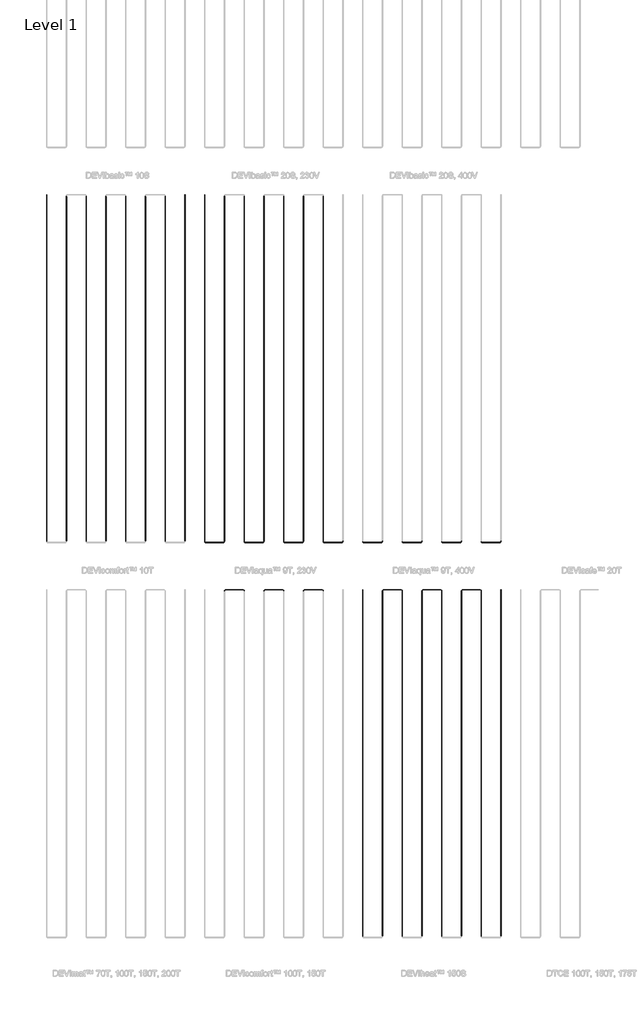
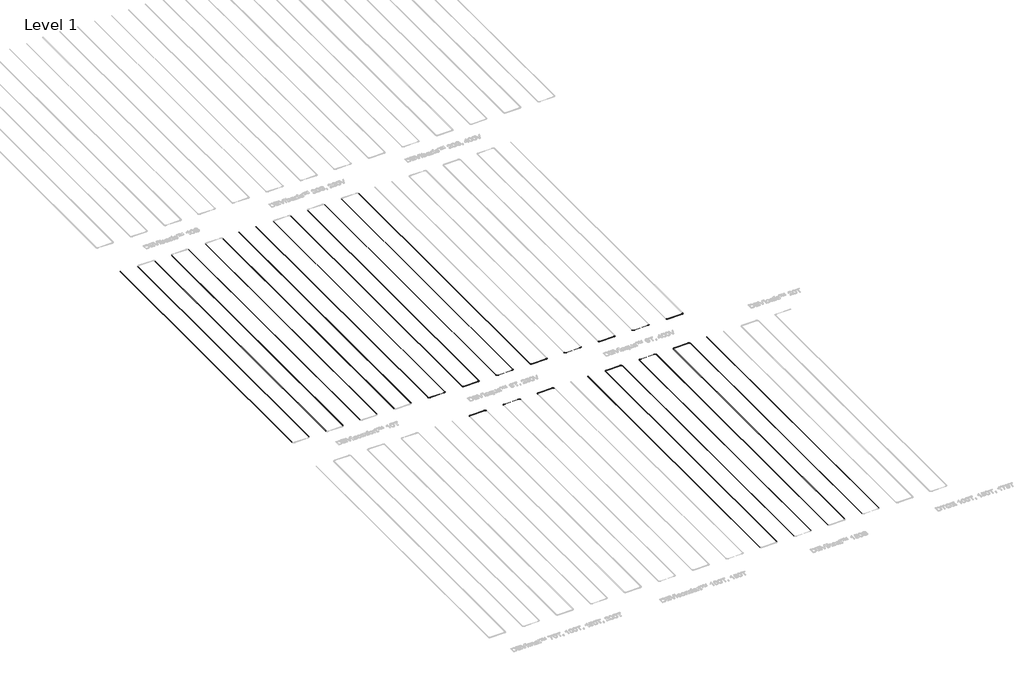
# One storey, part 2 of 26: 37 cable carrier segments, 28 cable carrier fittings.
"""IFC4 building model written with IfcOpenShell, lengths in millimetres."""

from ifc_helpers import new_model, si_unit, point, frame, frame_2d, origin, place, context, project, spatial, circle_curve, trimmed, segment, composite_curve, outline, extrude, transform, mapped, element, save
from components import cable_carrier_fitting_e4b1aeb6

model = new_model("IFC4")

# Units and contexts
model_context = context("Model", 3, world=origin())
ifc_project = project(units=[si_unit("LENGTHUNIT", "METRE", prefix="MILLI")], contexts=[model_context])

# Site, building, storey
site = spatial("IfcSite", under=ifc_project)
building = spatial("IfcBuilding", under=site)
storey = spatial("IfcBuildingStorey", under=building, Name="Level 1", Elevation=0.0)

# Cable carrier fittings
placement = place(None, origin())
cable_carrier_fitting_shape = cable_carrier_fitting_e4b1aeb6(model_context)
element("IfcCableCarrierFitting", 1, ObjectType="Danfoss Elbow : DEVIbasic™ 20S, 230V", at=placement, inside=storey, context=model_context, shape_type="MappedRepresentation", body=[
    mapped(cable_carrier_fitting_shape, transform((-7587.3402445, -16738.7894079, -100.0), x_axis=(0.0, -1.0, 0.0), y_axis=(1.0, 0.0, 0.0), z_axis=(0.0, 0.0, 1.0))),
])
element("IfcCableCarrierFitting", 2, ObjectType="Danfoss Elbow : DEVIbasic™ 20S, 230V", at=placement, inside=storey, context=model_context, shape_type="MappedRepresentation", body=[
    mapped(cable_carrier_fitting_shape, transform((-7087.3402445, -16738.7894079, -100.0), x_axis=(1.0, 0.0, 0.0), y_axis=(0.0, 1.0, 0.0), z_axis=(0.0, 0.0, 1.0))),
])
element("IfcCableCarrierFitting", 3, ObjectType="Danfoss Elbow : DEVIbasic™ 20S, 230V", at=placement, inside=storey, context=model_context, shape_type="MappedRepresentation", body=[
    mapped(cable_carrier_fitting_shape, transform((-6587.3402445, -16738.7894079, -100.0), x_axis=(0.0, -1.0, 0.0), y_axis=(1.0, 0.0, 0.0), z_axis=(0.0, 0.0, 1.0))),
])
element("IfcCableCarrierFitting", 4, ObjectType="Danfoss Elbow : DEVIbasic™ 20S, 230V", at=placement, inside=storey, context=model_context, shape_type="MappedRepresentation", body=[
    mapped(cable_carrier_fitting_shape, transform((-6087.3402445, -16738.7894079, -100.0), x_axis=(1.0, 0.0, 0.0), y_axis=(0.0, 1.0, 0.0), z_axis=(0.0, 0.0, 1.0))),
])
element("IfcCableCarrierFitting", 5, ObjectType="Danfoss Elbow : DEVIbasic™ 20S, 230V", at=placement, inside=storey, context=model_context, shape_type="MappedRepresentation", body=[
    mapped(cable_carrier_fitting_shape, transform((-5587.3402445, -16738.7894079, -100.0), x_axis=(0.0, -1.0, 0.0), y_axis=(1.0, 0.0, 0.0), z_axis=(0.0, 0.0, 1.0))),
])
element("IfcCableCarrierFitting", 6, ObjectType="Danfoss Elbow : DEVIbasic™ 20S, 230V", at=placement, inside=storey, context=model_context, shape_type="MappedRepresentation", body=[
    mapped(cable_carrier_fitting_shape, transform((-5087.3402445, -16738.7894079, -100.0), x_axis=(1.0, 0.0, 0.0), y_axis=(0.0, 1.0, 0.0), z_axis=(0.0, 0.0, 1.0))),
])
element("IfcCableCarrierFitting", 7, ObjectType="Danfoss Elbow : DEVIbasic™ 20S, 230V", at=placement, inside=storey, context=model_context, shape_type="MappedRepresentation", body=[
    mapped(cable_carrier_fitting_shape, transform((-4587.3402445, -16738.7894079, -100.0), x_axis=(0.0, -1.0, 0.0), y_axis=(1.0, 0.0, 0.0), z_axis=(0.0, 0.0, 1.0))),
])
element("IfcCableCarrierFitting", 8, ObjectType="Danfoss Elbow : DEVIbasic™ 20S, 230V", at=placement, inside=storey, context=model_context, shape_type="MappedRepresentation", body=[
    mapped(cable_carrier_fitting_shape, transform((-4087.3402445, -16738.7894079, -100.0), x_axis=(1.0, 0.0, 0.0), y_axis=(0.0, 1.0, 0.0), z_axis=(0.0, 0.0, 1.0))),
])
element("IfcCableCarrierFitting", 9, ObjectType="Danfoss Elbow : DEVIbasic™ 20S, 400V", at=placement, inside=storey, context=model_context, shape_type="MappedRepresentation", body=[
    mapped(cable_carrier_fitting_shape, transform((-3587.3402445, -16738.7894079, -100.0), x_axis=(0.0, -1.0, 0.0), y_axis=(1.0, 0.0, 0.0), z_axis=(0.0, 0.0, 1.0))),
])
element("IfcCableCarrierFitting", 10, ObjectType="Danfoss Elbow : DEVIbasic™ 20S, 400V", at=placement, inside=storey, context=model_context, shape_type="MappedRepresentation", body=[
    mapped(cable_carrier_fitting_shape, transform((-3087.3402445, -16738.7894079, -100.0), x_axis=(1.0, 0.0, 0.0), y_axis=(0.0, 1.0, 0.0), z_axis=(0.0, 0.0, 1.0))),
])
element("IfcCableCarrierFitting", 11, ObjectType="Danfoss Elbow : DEVIbasic™ 20S, 400V", at=placement, inside=storey, context=model_context, shape_type="MappedRepresentation", body=[
    mapped(cable_carrier_fitting_shape, transform((-2587.3402445, -16738.7894079, -100.0), x_axis=(0.0, -1.0, 0.0), y_axis=(1.0, 0.0, 0.0), z_axis=(0.0, 0.0, 1.0))),
])
element("IfcCableCarrierFitting", 12, ObjectType="Danfoss Elbow : DEVIbasic™ 20S, 400V", at=placement, inside=storey, context=model_context, shape_type="MappedRepresentation", body=[
    mapped(cable_carrier_fitting_shape, transform((-2087.3402445, -16738.7894079, -100.0), x_axis=(1.0, 0.0, 0.0), y_axis=(0.0, 1.0, 0.0), z_axis=(0.0, 0.0, 1.0))),
])
element("IfcCableCarrierFitting", 13, ObjectType="Danfoss Elbow : DEVIbasic™ 20S, 400V", at=placement, inside=storey, context=model_context, shape_type="MappedRepresentation", body=[
    mapped(cable_carrier_fitting_shape, transform((-1587.3402445, -16738.7894079, -100.0), x_axis=(0.0, -1.0, 0.0), y_axis=(1.0, 0.0, 0.0), z_axis=(0.0, 0.0, 1.0))),
])
element("IfcCableCarrierFitting", 14, ObjectType="Danfoss Elbow : DEVIbasic™ 20S, 400V", at=placement, inside=storey, context=model_context, shape_type="MappedRepresentation", body=[
    mapped(cable_carrier_fitting_shape, transform((-1087.3402445, -16738.7894079, -100.0), x_axis=(1.0, 0.0, 0.0), y_axis=(0.0, 1.0, 0.0), z_axis=(0.0, 0.0, 1.0))),
])
element("IfcCableCarrierFitting", 15, ObjectType="Danfoss Elbow : DEVIbasic™ 20S, 400V", at=placement, inside=storey, context=model_context, shape_type="MappedRepresentation", body=[
    mapped(cable_carrier_fitting_shape, transform((-587.3402445, -16738.7894079, -100.0), x_axis=(0.0, -1.0, 0.0), y_axis=(1.0, 0.0, 0.0), z_axis=(0.0, 0.0, 1.0))),
])
element("IfcCableCarrierFitting", 16, ObjectType="Danfoss Elbow : DEVIbasic™ 20S, 400V", at=placement, inside=storey, context=model_context, shape_type="MappedRepresentation", body=[
    mapped(cable_carrier_fitting_shape, transform((-87.3402445, -16738.7894079, -100.0), x_axis=(1.0, 0.0, 0.0), y_axis=(0.0, 1.0, 0.0), z_axis=(0.0, 0.0, 1.0))),
])
element("IfcCableCarrierFitting", 17, ObjectType="Danfoss Elbow : DEVIaqua™ 9T, 230V", at=placement, inside=storey, context=model_context, shape_type="MappedRepresentation", body=[
    mapped(cable_carrier_fitting_shape, transform((-7087.3402445, -17938.7894079, -100.0), x_axis=(-1.0, 0.0, 0.0), y_axis=(0.0, -1.0, 0.0), z_axis=(0.0, 0.0, 1.0))),
])
element("IfcCableCarrierFitting", 18, ObjectType="Danfoss Elbow : DEVIaqua™ 9T, 230V", at=placement, inside=storey, context=model_context, shape_type="MappedRepresentation", body=[
    mapped(cable_carrier_fitting_shape, transform((-6587.3402445, -17938.7894079, -100.0), x_axis=(0.0, 1.0, 0.0), y_axis=(-1.0, 0.0, 0.0), z_axis=(0.0, 0.0, 1.0))),
])
element("IfcCableCarrierFitting", 19, ObjectType="Danfoss Elbow : DEVIaqua™ 9T, 230V", at=placement, inside=storey, context=model_context, shape_type="MappedRepresentation", body=[
    mapped(cable_carrier_fitting_shape, transform((-6087.3402445, -17938.7894079, -100.0), x_axis=(-1.0, 0.0, 0.0), y_axis=(0.0, -1.0, 0.0), z_axis=(0.0, 0.0, 1.0))),
])
element("IfcCableCarrierFitting", 20, ObjectType="Danfoss Elbow : DEVIaqua™ 9T, 230V", at=placement, inside=storey, context=model_context, shape_type="MappedRepresentation", body=[
    mapped(cable_carrier_fitting_shape, transform((-5587.3402445, -17938.7894079, -100.0), x_axis=(0.0, 1.0, 0.0), y_axis=(-1.0, 0.0, 0.0), z_axis=(0.0, 0.0, 1.0))),
])
element("IfcCableCarrierFitting", 21, ObjectType="Danfoss Elbow : DEVIaqua™ 9T, 230V", at=placement, inside=storey, context=model_context, shape_type="MappedRepresentation", body=[
    mapped(cable_carrier_fitting_shape, transform((-5087.3402445, -17938.7894079, -100.0), x_axis=(-1.0, 0.0, 0.0), y_axis=(0.0, -1.0, 0.0), z_axis=(0.0, 0.0, 1.0))),
])
element("IfcCableCarrierFitting", 22, ObjectType="Danfoss Elbow : DEVIaqua™ 9T, 230V", at=placement, inside=storey, context=model_context, shape_type="MappedRepresentation", body=[
    mapped(cable_carrier_fitting_shape, transform((-4587.3402445, -17938.7894079, -100.0), x_axis=(0.0, 1.0, 0.0), y_axis=(-1.0, 0.0, 0.0), z_axis=(0.0, 0.0, 1.0))),
])
element("IfcCableCarrierFitting", 23, ObjectType="Danfoss Elbow : DEVIaqua™ 9T, 400V", at=placement, inside=storey, context=model_context, shape_type="MappedRepresentation", body=[
    mapped(cable_carrier_fitting_shape, transform((-3087.3402445, -17938.7894079, -100.0), x_axis=(-1.0, 0.0, 0.0), y_axis=(0.0, -1.0, 0.0), z_axis=(0.0, 0.0, 1.0))),
])
element("IfcCableCarrierFitting", 24, ObjectType="Danfoss Elbow : DEVIaqua™ 9T, 400V", at=placement, inside=storey, context=model_context, shape_type="MappedRepresentation", body=[
    mapped(cable_carrier_fitting_shape, transform((-2587.3402445, -17938.7894079, -100.0), x_axis=(0.0, 1.0, 0.0), y_axis=(-1.0, 0.0, 0.0), z_axis=(0.0, 0.0, 1.0))),
])
element("IfcCableCarrierFitting", 25, ObjectType="Danfoss Elbow : DEVIaqua™ 9T, 400V", at=placement, inside=storey, context=model_context, shape_type="MappedRepresentation", body=[
    mapped(cable_carrier_fitting_shape, transform((-2087.3402445, -17938.7894079, -100.0), x_axis=(-1.0, 0.0, 0.0), y_axis=(0.0, -1.0, 0.0), z_axis=(0.0, 0.0, 1.0))),
])
element("IfcCableCarrierFitting", 26, ObjectType="Danfoss Elbow : DEVIaqua™ 9T, 400V", at=placement, inside=storey, context=model_context, shape_type="MappedRepresentation", body=[
    mapped(cable_carrier_fitting_shape, transform((-1587.3402445, -17938.7894079, -100.0), x_axis=(0.0, 1.0, 0.0), y_axis=(-1.0, 0.0, 0.0), z_axis=(0.0, 0.0, 1.0))),
])
element("IfcCableCarrierFitting", 27, ObjectType="Danfoss Elbow : DEVIaqua™ 9T, 400V", at=placement, inside=storey, context=model_context, shape_type="MappedRepresentation", body=[
    mapped(cable_carrier_fitting_shape, transform((-1087.3402445, -17938.7894079, -100.0), x_axis=(-1.0, 0.0, 0.0), y_axis=(0.0, -1.0, 0.0), z_axis=(0.0, 0.0, 1.0))),
])
element("IfcCableCarrierFitting", 28, ObjectType="Danfoss Elbow : DEVIaqua™ 9T, 400V", at=placement, inside=storey, context=model_context, shape_type="MappedRepresentation", body=[
    mapped(cable_carrier_fitting_shape, transform((-587.3402445, -17938.7894079, -100.0), x_axis=(0.0, 1.0, 0.0), y_axis=(-1.0, 0.0, 0.0), z_axis=(0.0, 0.0, 1.0))),
])

# Cable carrier segments
element("IfcCableCarrierSegment", 29, ObjectType="DEVIbasic™ 10S", at=placement, inside=storey, context=model_context, shape_type="SweptSolid", body=[
    extrude(outline(composite_curve([segment(trimmed(circle_curve(frame_2d((-100.0, -11587.3402445)), 3.45), [point((-100.0, -11590.7902445))], [point((-103.45, -11587.3402445))], False, "CARTESIAN"), True, "CONTINUOUS"), segment(trimmed(circle_curve(frame_2d((-100.0, -11587.3402445)), 3.45), [point((-103.45, -11587.3402445))], [point((-100.0, -11583.8902445))], False, "CARTESIAN"), True, "CONTINUOUS"), segment(trimmed(circle_curve(frame_2d((-100.0, -11587.3402445)), 3.45), [point((-100.0, -11583.8902445))], [point((-96.55, -11587.3402445))], False, "CARTESIAN"), True, "CONTINUOUS"), segment(trimmed(circle_curve(frame_2d((-100.0, -11587.3402445)), 3.45), [point((-96.55, -11587.3402445))], [point((-100.0, -11590.7902445))], False, "CARTESIAN"), True, "CONTINUOUS")], self_intersect=False)), frame((0.0, -16703.7894079, 0.0), z_axis=(0.0, 1.0, 0.0), x_axis=(0.0, 0.0, 1.0)), (0.0, 0.0, 1.0), 8765.0),
])
element("IfcCableCarrierSegment", 30, ObjectType="DEVIbasic™ 10S", at=placement, inside=storey, context=model_context, shape_type="SweptSolid", body=[
    extrude(outline(composite_curve([segment(trimmed(circle_curve(frame_2d((-100.0, -11087.3402445)), 3.45), [point((-100.0, -11083.8902445))], [point((-96.55, -11087.3402445))], False, "CARTESIAN"), True, "CONTINUOUS"), segment(trimmed(circle_curve(frame_2d((-100.0, -11087.3402445)), 3.45), [point((-96.55, -11087.3402445))], [point((-100.0, -11090.7902445))], False, "CARTESIAN"), True, "CONTINUOUS"), segment(trimmed(circle_curve(frame_2d((-100.0, -11087.3402445)), 3.45), [point((-100.0, -11090.7902445))], [point((-103.45, -11087.3402445))], False, "CARTESIAN"), True, "CONTINUOUS"), segment(trimmed(circle_curve(frame_2d((-100.0, -11087.3402445)), 3.45), [point((-103.45, -11087.3402445))], [point((-100.0, -11083.8902445))], False, "CARTESIAN"), True, "CONTINUOUS")], self_intersect=False)), frame((0.0, -16703.7894079, 0.0), z_axis=(0.0, 1.0, 0.0), x_axis=(0.0, 0.0, 1.0)), (0.0, 0.0, 1.0), 8730.0),
])
element("IfcCableCarrierSegment", 31, ObjectType="DEVIbasic™ 10S", at=placement, inside=storey, context=model_context, shape_type="SweptSolid", body=[
    extrude(outline(composite_curve([segment(trimmed(circle_curve(frame_2d((-100.0, -10587.3402445)), 3.45), [point((-100.0, -10590.7902445))], [point((-103.45, -10587.3402445))], False, "CARTESIAN"), True, "CONTINUOUS"), segment(trimmed(circle_curve(frame_2d((-100.0, -10587.3402445)), 3.45), [point((-103.45, -10587.3402445))], [point((-100.0, -10583.8902445))], False, "CARTESIAN"), True, "CONTINUOUS"), segment(trimmed(circle_curve(frame_2d((-100.0, -10587.3402445)), 3.45), [point((-100.0, -10583.8902445))], [point((-96.55, -10587.3402445))], False, "CARTESIAN"), True, "CONTINUOUS"), segment(trimmed(circle_curve(frame_2d((-100.0, -10587.3402445)), 3.45), [point((-96.55, -10587.3402445))], [point((-100.0, -10590.7902445))], False, "CARTESIAN"), True, "CONTINUOUS")], self_intersect=False)), frame((0.0, -16703.7894079, 0.0), z_axis=(0.0, 1.0, 0.0), x_axis=(0.0, 0.0, 1.0)), (0.0, 0.0, 1.0), 8730.0),
])
element("IfcCableCarrierSegment", 32, ObjectType="DEVIbasic™ 10S", at=placement, inside=storey, context=model_context, shape_type="SweptSolid", body=[
    extrude(outline(composite_curve([segment(trimmed(circle_curve(frame_2d((-100.0, -10087.3402445)), 3.45), [point((-100.0, -10083.8902445))], [point((-96.55, -10087.3402445))], False, "CARTESIAN"), True, "CONTINUOUS"), segment(trimmed(circle_curve(frame_2d((-100.0, -10087.3402445)), 3.45), [point((-96.55, -10087.3402445))], [point((-100.0, -10090.7902445))], False, "CARTESIAN"), True, "CONTINUOUS"), segment(trimmed(circle_curve(frame_2d((-100.0, -10087.3402445)), 3.45), [point((-100.0, -10090.7902445))], [point((-103.45, -10087.3402445))], False, "CARTESIAN"), True, "CONTINUOUS"), segment(trimmed(circle_curve(frame_2d((-100.0, -10087.3402445)), 3.45), [point((-103.45, -10087.3402445))], [point((-100.0, -10083.8902445))], False, "CARTESIAN"), True, "CONTINUOUS")], self_intersect=False)), frame((0.0, -16703.7894079, 0.0), z_axis=(0.0, 1.0, 0.0), x_axis=(0.0, 0.0, 1.0)), (0.0, 0.0, 1.0), 8730.0),
])
element("IfcCableCarrierSegment", 33, ObjectType="DEVIbasic™ 10S", at=placement, inside=storey, context=model_context, shape_type="SweptSolid", body=[
    extrude(outline(composite_curve([segment(trimmed(circle_curve(frame_2d((-100.0, -9587.3402445)), 3.45), [point((-100.0, -9590.7902445))], [point((-103.45, -9587.3402445))], False, "CARTESIAN"), True, "CONTINUOUS"), segment(trimmed(circle_curve(frame_2d((-100.0, -9587.3402445)), 3.45), [point((-103.45, -9587.3402445))], [point((-100.0, -9583.8902445))], False, "CARTESIAN"), True, "CONTINUOUS"), segment(trimmed(circle_curve(frame_2d((-100.0, -9587.3402445)), 3.45), [point((-100.0, -9583.8902445))], [point((-96.55, -9587.3402445))], False, "CARTESIAN"), True, "CONTINUOUS"), segment(trimmed(circle_curve(frame_2d((-100.0, -9587.3402445)), 3.45), [point((-96.55, -9587.3402445))], [point((-100.0, -9590.7902445))], False, "CARTESIAN"), True, "CONTINUOUS")], self_intersect=False)), frame((0.0, -16703.7894079, 0.0), z_axis=(0.0, 1.0, 0.0), x_axis=(0.0, 0.0, 1.0)), (0.0, 0.0, 1.0), 8730.0),
])
element("IfcCableCarrierSegment", 34, ObjectType="DEVIbasic™ 10S", at=placement, inside=storey, context=model_context, shape_type="SweptSolid", body=[
    extrude(outline(composite_curve([segment(trimmed(circle_curve(frame_2d((-100.0, -9087.3402445)), 3.45), [point((-100.0, -9083.8902445))], [point((-96.55, -9087.3402445))], False, "CARTESIAN"), True, "CONTINUOUS"), segment(trimmed(circle_curve(frame_2d((-100.0, -9087.3402445)), 3.45), [point((-96.55, -9087.3402445))], [point((-100.0, -9090.7902445))], False, "CARTESIAN"), True, "CONTINUOUS"), segment(trimmed(circle_curve(frame_2d((-100.0, -9087.3402445)), 3.45), [point((-100.0, -9090.7902445))], [point((-103.45, -9087.3402445))], False, "CARTESIAN"), True, "CONTINUOUS"), segment(trimmed(circle_curve(frame_2d((-100.0, -9087.3402445)), 3.45), [point((-103.45, -9087.3402445))], [point((-100.0, -9083.8902445))], False, "CARTESIAN"), True, "CONTINUOUS")], self_intersect=False)), frame((0.0, -16703.7894079, 0.0), z_axis=(0.0, 1.0, 0.0), x_axis=(0.0, 0.0, 1.0)), (0.0, 0.0, 1.0), 8730.0),
])
element("IfcCableCarrierSegment", 35, ObjectType="DEVIbasic™ 10S", at=placement, inside=storey, context=model_context, shape_type="SweptSolid", body=[
    extrude(outline(composite_curve([segment(trimmed(circle_curve(frame_2d((-100.0, -8587.3402445)), 3.45), [point((-100.0, -8590.7902445))], [point((-103.45, -8587.3402445))], False, "CARTESIAN"), True, "CONTINUOUS"), segment(trimmed(circle_curve(frame_2d((-100.0, -8587.3402445)), 3.45), [point((-103.45, -8587.3402445))], [point((-100.0, -8583.8902445))], False, "CARTESIAN"), True, "CONTINUOUS"), segment(trimmed(circle_curve(frame_2d((-100.0, -8587.3402445)), 3.45), [point((-100.0, -8583.8902445))], [point((-96.55, -8587.3402445))], False, "CARTESIAN"), True, "CONTINUOUS"), segment(trimmed(circle_curve(frame_2d((-100.0, -8587.3402445)), 3.45), [point((-96.55, -8587.3402445))], [point((-100.0, -8590.7902445))], False, "CARTESIAN"), True, "CONTINUOUS")], self_intersect=False)), frame((0.0, -16703.7894079, 0.0), z_axis=(0.0, 1.0, 0.0), x_axis=(0.0, 0.0, 1.0)), (0.0, 0.0, 1.0), 8730.0),
])
element("IfcCableCarrierSegment", 36, ObjectType="DEVIbasic™ 10S", at=placement, inside=storey, context=model_context, shape_type="SweptSolid", body=[
    extrude(outline(composite_curve([segment(trimmed(circle_curve(frame_2d((-100.0, -8087.3402445)), 3.45), [point((-100.0, -8083.8902445))], [point((-96.55, -8087.3402445))], False, "CARTESIAN"), True, "CONTINUOUS"), segment(trimmed(circle_curve(frame_2d((-100.0, -8087.3402445)), 3.45), [point((-96.55, -8087.3402445))], [point((-100.0, -8090.7902445))], False, "CARTESIAN"), True, "CONTINUOUS"), segment(trimmed(circle_curve(frame_2d((-100.0, -8087.3402445)), 3.45), [point((-100.0, -8090.7902445))], [point((-103.45, -8087.3402445))], False, "CARTESIAN"), True, "CONTINUOUS"), segment(trimmed(circle_curve(frame_2d((-100.0, -8087.3402445)), 3.45), [point((-103.45, -8087.3402445))], [point((-100.0, -8083.8902445))], False, "CARTESIAN"), True, "CONTINUOUS")], self_intersect=False)), frame((0.0, -16703.7894079, 0.0), z_axis=(0.0, 1.0, 0.0), x_axis=(0.0, 0.0, 1.0)), (0.0, 0.0, 1.0), 8765.0),
])
element("IfcCableCarrierSegment", 37, ObjectType="DEVIbasic™ 20S, 230V", at=placement, inside=storey, context=model_context, shape_type="SweptSolid", body=[
    extrude(outline(composite_curve([segment(trimmed(circle_curve(frame_2d((-100.0, -7587.3402445)), 3.45), [point((-100.0, -7590.7902445))], [point((-103.45, -7587.3402445))], False, "CARTESIAN"), True, "CONTINUOUS"), segment(trimmed(circle_curve(frame_2d((-100.0, -7587.3402445)), 3.45), [point((-103.45, -7587.3402445))], [point((-100.0, -7583.8902445))], False, "CARTESIAN"), True, "CONTINUOUS"), segment(trimmed(circle_curve(frame_2d((-100.0, -7587.3402445)), 3.45), [point((-100.0, -7583.8902445))], [point((-96.55, -7587.3402445))], False, "CARTESIAN"), True, "CONTINUOUS"), segment(trimmed(circle_curve(frame_2d((-100.0, -7587.3402445)), 3.45), [point((-96.55, -7587.3402445))], [point((-100.0, -7590.7902445))], False, "CARTESIAN"), True, "CONTINUOUS")], self_intersect=False)), frame((0.0, -16703.7894079, 0.0), z_axis=(0.0, 1.0, 0.0), x_axis=(0.0, 0.0, 1.0)), (0.0, 0.0, 1.0), 8765.0),
])
element("IfcCableCarrierSegment", 38, ObjectType="DEVIbasic™ 20S, 230V", at=placement, inside=storey, context=model_context, shape_type="SweptSolid", body=[
    extrude(outline(composite_curve([segment(trimmed(circle_curve(frame_2d((-16738.7894079, -100.0)), 3.45), [point((-16742.2394079, -100.0))], [point((-16738.7894079, -96.55))], False, "CARTESIAN"), True, "CONTINUOUS"), segment(trimmed(circle_curve(frame_2d((-16738.7894079, -100.0)), 3.45), [point((-16738.7894079, -96.55))], [point((-16735.3394079, -100.0))], False, "CARTESIAN"), True, "CONTINUOUS"), segment(trimmed(circle_curve(frame_2d((-16738.7894079, -100.0)), 3.45), [point((-16735.3394079, -100.0))], [point((-16738.7894079, -103.45))], False, "CARTESIAN"), True, "CONTINUOUS"), segment(trimmed(circle_curve(frame_2d((-16738.7894079, -100.0)), 3.45), [point((-16738.7894079, -103.45))], [point((-16742.2394079, -100.0))], False, "CARTESIAN"), True, "CONTINUOUS")], self_intersect=False)), frame((-7552.3402445, 0.0, 0.0), z_axis=(1.0, 0.0, 0.0), x_axis=(0.0, 1.0, 0.0)), (0.0, 0.0, 1.0), 430.0),
])
element("IfcCableCarrierSegment", 39, ObjectType="DEVIbasic™ 20S, 230V", at=placement, inside=storey, context=model_context, shape_type="SweptSolid", body=[
    extrude(outline(composite_curve([segment(trimmed(circle_curve(frame_2d((-100.0, -7087.3402445)), 3.45), [point((-100.0, -7083.8902445))], [point((-96.55, -7087.3402445))], False, "CARTESIAN"), True, "CONTINUOUS"), segment(trimmed(circle_curve(frame_2d((-100.0, -7087.3402445)), 3.45), [point((-96.55, -7087.3402445))], [point((-100.0, -7090.7902445))], False, "CARTESIAN"), True, "CONTINUOUS"), segment(trimmed(circle_curve(frame_2d((-100.0, -7087.3402445)), 3.45), [point((-100.0, -7090.7902445))], [point((-103.45, -7087.3402445))], False, "CARTESIAN"), True, "CONTINUOUS"), segment(trimmed(circle_curve(frame_2d((-100.0, -7087.3402445)), 3.45), [point((-103.45, -7087.3402445))], [point((-100.0, -7083.8902445))], False, "CARTESIAN"), True, "CONTINUOUS")], self_intersect=False)), frame((0.0, -16703.7894079, 0.0), z_axis=(0.0, 1.0, 0.0), x_axis=(0.0, 0.0, 1.0)), (0.0, 0.0, 1.0), 8730.0),
])
element("IfcCableCarrierSegment", 40, ObjectType="DEVIbasic™ 20S, 230V", at=placement, inside=storey, context=model_context, shape_type="SweptSolid", body=[
    extrude(outline(composite_curve([segment(trimmed(circle_curve(frame_2d((-100.0, -6587.3402445)), 3.45), [point((-100.0, -6590.7902445))], [point((-103.45, -6587.3402445))], False, "CARTESIAN"), True, "CONTINUOUS"), segment(trimmed(circle_curve(frame_2d((-100.0, -6587.3402445)), 3.45), [point((-103.45, -6587.3402445))], [point((-100.0, -6583.8902445))], False, "CARTESIAN"), True, "CONTINUOUS"), segment(trimmed(circle_curve(frame_2d((-100.0, -6587.3402445)), 3.45), [point((-100.0, -6583.8902445))], [point((-96.55, -6587.3402445))], False, "CARTESIAN"), True, "CONTINUOUS"), segment(trimmed(circle_curve(frame_2d((-100.0, -6587.3402445)), 3.45), [point((-96.55, -6587.3402445))], [point((-100.0, -6590.7902445))], False, "CARTESIAN"), True, "CONTINUOUS")], self_intersect=False)), frame((0.0, -16703.7894079, 0.0), z_axis=(0.0, 1.0, 0.0), x_axis=(0.0, 0.0, 1.0)), (0.0, 0.0, 1.0), 8730.0),
])
element("IfcCableCarrierSegment", 41, ObjectType="DEVIbasic™ 20S, 230V", at=placement, inside=storey, context=model_context, shape_type="SweptSolid", body=[
    extrude(outline(composite_curve([segment(trimmed(circle_curve(frame_2d((-16738.7894079, -100.0)), 3.45), [point((-16742.2394079, -100.0))], [point((-16738.7894079, -96.55))], False, "CARTESIAN"), True, "CONTINUOUS"), segment(trimmed(circle_curve(frame_2d((-16738.7894079, -100.0)), 3.45), [point((-16738.7894079, -96.55))], [point((-16735.3394079, -100.0))], False, "CARTESIAN"), True, "CONTINUOUS"), segment(trimmed(circle_curve(frame_2d((-16738.7894079, -100.0)), 3.45), [point((-16735.3394079, -100.0))], [point((-16738.7894079, -103.45))], False, "CARTESIAN"), True, "CONTINUOUS"), segment(trimmed(circle_curve(frame_2d((-16738.7894079, -100.0)), 3.45), [point((-16738.7894079, -103.45))], [point((-16742.2394079, -100.0))], False, "CARTESIAN"), True, "CONTINUOUS")], self_intersect=False)), frame((-6552.3402445, 0.0, 0.0), z_axis=(1.0, 0.0, 0.0), x_axis=(0.0, 1.0, 0.0)), (0.0, 0.0, 1.0), 430.0),
])
element("IfcCableCarrierSegment", 42, ObjectType="DEVIbasic™ 20S, 230V", at=placement, inside=storey, context=model_context, shape_type="SweptSolid", body=[
    extrude(outline(composite_curve([segment(trimmed(circle_curve(frame_2d((-100.0, -6087.3402445)), 3.45), [point((-100.0, -6083.8902445))], [point((-96.55, -6087.3402445))], False, "CARTESIAN"), True, "CONTINUOUS"), segment(trimmed(circle_curve(frame_2d((-100.0, -6087.3402445)), 3.45), [point((-96.55, -6087.3402445))], [point((-100.0, -6090.7902445))], False, "CARTESIAN"), True, "CONTINUOUS"), segment(trimmed(circle_curve(frame_2d((-100.0, -6087.3402445)), 3.45), [point((-100.0, -6090.7902445))], [point((-103.45, -6087.3402445))], False, "CARTESIAN"), True, "CONTINUOUS"), segment(trimmed(circle_curve(frame_2d((-100.0, -6087.3402445)), 3.45), [point((-103.45, -6087.3402445))], [point((-100.0, -6083.8902445))], False, "CARTESIAN"), True, "CONTINUOUS")], self_intersect=False)), frame((0.0, -16703.7894079, 0.0), z_axis=(0.0, 1.0, 0.0), x_axis=(0.0, 0.0, 1.0)), (0.0, 0.0, 1.0), 8730.0),
])
element("IfcCableCarrierSegment", 43, ObjectType="DEVIbasic™ 20S, 230V", at=placement, inside=storey, context=model_context, shape_type="SweptSolid", body=[
    extrude(outline(composite_curve([segment(trimmed(circle_curve(frame_2d((-100.0, -5587.3402445)), 3.45), [point((-100.0, -5590.7902445))], [point((-103.45, -5587.3402445))], False, "CARTESIAN"), True, "CONTINUOUS"), segment(trimmed(circle_curve(frame_2d((-100.0, -5587.3402445)), 3.45), [point((-103.45, -5587.3402445))], [point((-100.0, -5583.8902445))], False, "CARTESIAN"), True, "CONTINUOUS"), segment(trimmed(circle_curve(frame_2d((-100.0, -5587.3402445)), 3.45), [point((-100.0, -5583.8902445))], [point((-96.55, -5587.3402445))], False, "CARTESIAN"), True, "CONTINUOUS"), segment(trimmed(circle_curve(frame_2d((-100.0, -5587.3402445)), 3.45), [point((-96.55, -5587.3402445))], [point((-100.0, -5590.7902445))], False, "CARTESIAN"), True, "CONTINUOUS")], self_intersect=False)), frame((0.0, -16703.7894079, 0.0), z_axis=(0.0, 1.0, 0.0), x_axis=(0.0, 0.0, 1.0)), (0.0, 0.0, 1.0), 8730.0),
])
element("IfcCableCarrierSegment", 44, ObjectType="DEVIbasic™ 20S, 230V", at=placement, inside=storey, context=model_context, shape_type="SweptSolid", body=[
    extrude(outline(composite_curve([segment(trimmed(circle_curve(frame_2d((-16738.7894079, -100.0)), 3.45), [point((-16742.2394079, -100.0))], [point((-16738.7894079, -96.55))], False, "CARTESIAN"), True, "CONTINUOUS"), segment(trimmed(circle_curve(frame_2d((-16738.7894079, -100.0)), 3.45), [point((-16738.7894079, -96.55))], [point((-16735.3394079, -100.0))], False, "CARTESIAN"), True, "CONTINUOUS"), segment(trimmed(circle_curve(frame_2d((-16738.7894079, -100.0)), 3.45), [point((-16735.3394079, -100.0))], [point((-16738.7894079, -103.45))], False, "CARTESIAN"), True, "CONTINUOUS"), segment(trimmed(circle_curve(frame_2d((-16738.7894079, -100.0)), 3.45), [point((-16738.7894079, -103.45))], [point((-16742.2394079, -100.0))], False, "CARTESIAN"), True, "CONTINUOUS")], self_intersect=False)), frame((-5552.3402445, 0.0, 0.0), z_axis=(1.0, 0.0, 0.0), x_axis=(0.0, 1.0, 0.0)), (0.0, 0.0, 1.0), 430.0),
])
element("IfcCableCarrierSegment", 45, ObjectType="DEVIbasic™ 20S, 230V", at=placement, inside=storey, context=model_context, shape_type="SweptSolid", body=[
    extrude(outline(composite_curve([segment(trimmed(circle_curve(frame_2d((-100.0, -5087.3402445)), 3.45), [point((-100.0, -5083.8902445))], [point((-96.55, -5087.3402445))], False, "CARTESIAN"), True, "CONTINUOUS"), segment(trimmed(circle_curve(frame_2d((-100.0, -5087.3402445)), 3.45), [point((-96.55, -5087.3402445))], [point((-100.0, -5090.7902445))], False, "CARTESIAN"), True, "CONTINUOUS"), segment(trimmed(circle_curve(frame_2d((-100.0, -5087.3402445)), 3.45), [point((-100.0, -5090.7902445))], [point((-103.45, -5087.3402445))], False, "CARTESIAN"), True, "CONTINUOUS"), segment(trimmed(circle_curve(frame_2d((-100.0, -5087.3402445)), 3.45), [point((-103.45, -5087.3402445))], [point((-100.0, -5083.8902445))], False, "CARTESIAN"), True, "CONTINUOUS")], self_intersect=False)), frame((0.0, -16703.7894079, 0.0), z_axis=(0.0, 1.0, 0.0), x_axis=(0.0, 0.0, 1.0)), (0.0, 0.0, 1.0), 8730.0),
])
element("IfcCableCarrierSegment", 46, ObjectType="DEVIbasic™ 20S, 230V", at=placement, inside=storey, context=model_context, shape_type="SweptSolid", body=[
    extrude(outline(composite_curve([segment(trimmed(circle_curve(frame_2d((-100.0, -4587.3402445)), 3.45), [point((-100.0, -4590.7902445))], [point((-103.45, -4587.3402445))], False, "CARTESIAN"), True, "CONTINUOUS"), segment(trimmed(circle_curve(frame_2d((-100.0, -4587.3402445)), 3.45), [point((-103.45, -4587.3402445))], [point((-100.0, -4583.8902445))], False, "CARTESIAN"), True, "CONTINUOUS"), segment(trimmed(circle_curve(frame_2d((-100.0, -4587.3402445)), 3.45), [point((-100.0, -4583.8902445))], [point((-96.55, -4587.3402445))], False, "CARTESIAN"), True, "CONTINUOUS"), segment(trimmed(circle_curve(frame_2d((-100.0, -4587.3402445)), 3.45), [point((-96.55, -4587.3402445))], [point((-100.0, -4590.7902445))], False, "CARTESIAN"), True, "CONTINUOUS")], self_intersect=False)), frame((0.0, -16703.7894079, 0.0), z_axis=(0.0, 1.0, 0.0), x_axis=(0.0, 0.0, 1.0)), (0.0, 0.0, 1.0), 8730.0),
])
element("IfcCableCarrierSegment", 47, ObjectType="DEVIbasic™ 20S, 230V", at=placement, inside=storey, context=model_context, shape_type="SweptSolid", body=[
    extrude(outline(composite_curve([segment(trimmed(circle_curve(frame_2d((-16738.7894079, -100.0)), 3.45), [point((-16742.2394079, -100.0))], [point((-16738.7894079, -96.55))], False, "CARTESIAN"), True, "CONTINUOUS"), segment(trimmed(circle_curve(frame_2d((-16738.7894079, -100.0)), 3.45), [point((-16738.7894079, -96.55))], [point((-16735.3394079, -100.0))], False, "CARTESIAN"), True, "CONTINUOUS"), segment(trimmed(circle_curve(frame_2d((-16738.7894079, -100.0)), 3.45), [point((-16735.3394079, -100.0))], [point((-16738.7894079, -103.45))], False, "CARTESIAN"), True, "CONTINUOUS"), segment(trimmed(circle_curve(frame_2d((-16738.7894079, -100.0)), 3.45), [point((-16738.7894079, -103.45))], [point((-16742.2394079, -100.0))], False, "CARTESIAN"), True, "CONTINUOUS")], self_intersect=False)), frame((-4552.3402445, 0.0, 0.0), z_axis=(1.0, 0.0, 0.0), x_axis=(0.0, 1.0, 0.0)), (0.0, 0.0, 1.0), 430.0),
])
element("IfcCableCarrierSegment", 48, ObjectType="DEVIbasic™ 20S, 400V", at=placement, inside=storey, context=model_context, shape_type="SweptSolid", body=[
    extrude(outline(composite_curve([segment(trimmed(circle_curve(frame_2d((-16738.7894079, -100.0)), 3.45), [point((-16742.2394079, -100.0))], [point((-16738.7894079, -96.55))], False, "CARTESIAN"), True, "CONTINUOUS"), segment(trimmed(circle_curve(frame_2d((-16738.7894079, -100.0)), 3.45), [point((-16738.7894079, -96.55))], [point((-16735.3394079, -100.0))], False, "CARTESIAN"), True, "CONTINUOUS"), segment(trimmed(circle_curve(frame_2d((-16738.7894079, -100.0)), 3.45), [point((-16735.3394079, -100.0))], [point((-16738.7894079, -103.45))], False, "CARTESIAN"), True, "CONTINUOUS"), segment(trimmed(circle_curve(frame_2d((-16738.7894079, -100.0)), 3.45), [point((-16738.7894079, -103.45))], [point((-16742.2394079, -100.0))], False, "CARTESIAN"), True, "CONTINUOUS")], self_intersect=False)), frame((-3552.3402445, 0.0, 0.0), z_axis=(1.0, 0.0, 0.0), x_axis=(0.0, 1.0, 0.0)), (0.0, 0.0, 1.0), 430.0),
])
element("IfcCableCarrierSegment", 49, ObjectType="DEVIbasic™ 20S, 400V", at=placement, inside=storey, context=model_context, shape_type="SweptSolid", body=[
    extrude(outline(composite_curve([segment(trimmed(circle_curve(frame_2d((-16738.7894079, -100.0)), 3.45), [point((-16742.2394079, -100.0))], [point((-16738.7894079, -96.55))], False, "CARTESIAN"), True, "CONTINUOUS"), segment(trimmed(circle_curve(frame_2d((-16738.7894079, -100.0)), 3.45), [point((-16738.7894079, -96.55))], [point((-16735.3394079, -100.0))], False, "CARTESIAN"), True, "CONTINUOUS"), segment(trimmed(circle_curve(frame_2d((-16738.7894079, -100.0)), 3.45), [point((-16735.3394079, -100.0))], [point((-16738.7894079, -103.45))], False, "CARTESIAN"), True, "CONTINUOUS"), segment(trimmed(circle_curve(frame_2d((-16738.7894079, -100.0)), 3.45), [point((-16738.7894079, -103.45))], [point((-16742.2394079, -100.0))], False, "CARTESIAN"), True, "CONTINUOUS")], self_intersect=False)), frame((-2552.3402445, 0.0, 0.0), z_axis=(1.0, 0.0, 0.0), x_axis=(0.0, 1.0, 0.0)), (0.0, 0.0, 1.0), 430.0),
])
element("IfcCableCarrierSegment", 50, ObjectType="DEVIbasic™ 20S, 400V", at=placement, inside=storey, context=model_context, shape_type="SweptSolid", body=[
    extrude(outline(composite_curve([segment(trimmed(circle_curve(frame_2d((-16738.7894079, -100.0)), 3.45), [point((-16742.2394079, -100.0))], [point((-16738.7894079, -96.55))], False, "CARTESIAN"), True, "CONTINUOUS"), segment(trimmed(circle_curve(frame_2d((-16738.7894079, -100.0)), 3.45), [point((-16738.7894079, -96.55))], [point((-16735.3394079, -100.0))], False, "CARTESIAN"), True, "CONTINUOUS"), segment(trimmed(circle_curve(frame_2d((-16738.7894079, -100.0)), 3.45), [point((-16735.3394079, -100.0))], [point((-16738.7894079, -103.45))], False, "CARTESIAN"), True, "CONTINUOUS"), segment(trimmed(circle_curve(frame_2d((-16738.7894079, -100.0)), 3.45), [point((-16738.7894079, -103.45))], [point((-16742.2394079, -100.0))], False, "CARTESIAN"), True, "CONTINUOUS")], self_intersect=False)), frame((-1552.3402445, 0.0, 0.0), z_axis=(1.0, 0.0, 0.0), x_axis=(0.0, 1.0, 0.0)), (0.0, 0.0, 1.0), 430.0),
])
element("IfcCableCarrierSegment", 51, ObjectType="DEVIbasic™ 20S, 400V", at=placement, inside=storey, context=model_context, shape_type="SweptSolid", body=[
    extrude(outline(composite_curve([segment(trimmed(circle_curve(frame_2d((-16738.7894079, -100.0)), 3.45), [point((-16742.2394079, -100.0))], [point((-16738.7894079, -96.55))], False, "CARTESIAN"), True, "CONTINUOUS"), segment(trimmed(circle_curve(frame_2d((-16738.7894079, -100.0)), 3.45), [point((-16738.7894079, -96.55))], [point((-16735.3394079, -100.0))], False, "CARTESIAN"), True, "CONTINUOUS"), segment(trimmed(circle_curve(frame_2d((-16738.7894079, -100.0)), 3.45), [point((-16735.3394079, -100.0))], [point((-16738.7894079, -103.45))], False, "CARTESIAN"), True, "CONTINUOUS"), segment(trimmed(circle_curve(frame_2d((-16738.7894079, -100.0)), 3.45), [point((-16738.7894079, -103.45))], [point((-16742.2394079, -100.0))], False, "CARTESIAN"), True, "CONTINUOUS")], self_intersect=False)), frame((-552.3402445, 0.0, 0.0), z_axis=(1.0, 0.0, 0.0), x_axis=(0.0, 1.0, 0.0)), (0.0, 0.0, 1.0), 430.0),
])
element("IfcCableCarrierSegment", 52, ObjectType="DEVIaqua™ 9T, 230V", at=placement, inside=storey, context=model_context, shape_type="SweptSolid", body=[
    extrude(outline(composite_curve([segment(trimmed(circle_curve(frame_2d((-17938.7894079, -100.0)), 3.45), [point((-17942.2394079, -100.0))], [point((-17938.7894079, -96.55))], False, "CARTESIAN"), True, "CONTINUOUS"), segment(trimmed(circle_curve(frame_2d((-17938.7894079, -100.0)), 3.45), [point((-17938.7894079, -96.55))], [point((-17935.3394079, -100.0))], False, "CARTESIAN"), True, "CONTINUOUS"), segment(trimmed(circle_curve(frame_2d((-17938.7894079, -100.0)), 3.45), [point((-17935.3394079, -100.0))], [point((-17938.7894079, -103.45))], False, "CARTESIAN"), True, "CONTINUOUS"), segment(trimmed(circle_curve(frame_2d((-17938.7894079, -100.0)), 3.45), [point((-17938.7894079, -103.45))], [point((-17942.2394079, -100.0))], False, "CARTESIAN"), True, "CONTINUOUS")], self_intersect=False)), frame((-7052.3402445, 0.0, 0.0), z_axis=(1.0, 0.0, 0.0), x_axis=(0.0, 1.0, 0.0)), (0.0, 0.0, 1.0), 430.0),
])
element("IfcCableCarrierSegment", 53, ObjectType="DEVIaqua™ 9T, 230V", at=placement, inside=storey, context=model_context, shape_type="SweptSolid", body=[
    extrude(outline(composite_curve([segment(trimmed(circle_curve(frame_2d((-17938.7894079, -100.0)), 3.45), [point((-17942.2394079, -100.0))], [point((-17938.7894079, -96.55))], False, "CARTESIAN"), True, "CONTINUOUS"), segment(trimmed(circle_curve(frame_2d((-17938.7894079, -100.0)), 3.45), [point((-17938.7894079, -96.55))], [point((-17935.3394079, -100.0))], False, "CARTESIAN"), True, "CONTINUOUS"), segment(trimmed(circle_curve(frame_2d((-17938.7894079, -100.0)), 3.45), [point((-17935.3394079, -100.0))], [point((-17938.7894079, -103.45))], False, "CARTESIAN"), True, "CONTINUOUS"), segment(trimmed(circle_curve(frame_2d((-17938.7894079, -100.0)), 3.45), [point((-17938.7894079, -103.45))], [point((-17942.2394079, -100.0))], False, "CARTESIAN"), True, "CONTINUOUS")], self_intersect=False)), frame((-6052.3402445, 0.0, 0.0), z_axis=(1.0, 0.0, 0.0), x_axis=(0.0, 1.0, 0.0)), (0.0, 0.0, 1.0), 430.0),
])
element("IfcCableCarrierSegment", 54, ObjectType="DEVIaqua™ 9T, 230V", at=placement, inside=storey, context=model_context, shape_type="SweptSolid", body=[
    extrude(outline(composite_curve([segment(trimmed(circle_curve(frame_2d((-17938.7894079, -100.0)), 3.45), [point((-17942.2394079, -100.0))], [point((-17938.7894079, -96.55))], False, "CARTESIAN"), True, "CONTINUOUS"), segment(trimmed(circle_curve(frame_2d((-17938.7894079, -100.0)), 3.45), [point((-17938.7894079, -96.55))], [point((-17935.3394079, -100.0))], False, "CARTESIAN"), True, "CONTINUOUS"), segment(trimmed(circle_curve(frame_2d((-17938.7894079, -100.0)), 3.45), [point((-17935.3394079, -100.0))], [point((-17938.7894079, -103.45))], False, "CARTESIAN"), True, "CONTINUOUS"), segment(trimmed(circle_curve(frame_2d((-17938.7894079, -100.0)), 3.45), [point((-17938.7894079, -103.45))], [point((-17942.2394079, -100.0))], False, "CARTESIAN"), True, "CONTINUOUS")], self_intersect=False)), frame((-5052.3402445, 0.0, 0.0), z_axis=(1.0, 0.0, 0.0), x_axis=(0.0, 1.0, 0.0)), (0.0, 0.0, 1.0), 430.0),
])
element("IfcCableCarrierSegment", 55, ObjectType="DEVIaqua™ 9T, 400V", at=placement, inside=storey, context=model_context, shape_type="SweptSolid", body=[
    extrude(outline(composite_curve([segment(trimmed(circle_curve(frame_2d((-100.0, -3587.3402445)), 3.45), [point((-100.0, -3590.7902445))], [point((-103.45, -3587.3402445))], False, "CARTESIAN"), True, "CONTINUOUS"), segment(trimmed(circle_curve(frame_2d((-100.0, -3587.3402445)), 3.45), [point((-103.45, -3587.3402445))], [point((-100.0, -3583.8902445))], False, "CARTESIAN"), True, "CONTINUOUS"), segment(trimmed(circle_curve(frame_2d((-100.0, -3587.3402445)), 3.45), [point((-100.0, -3583.8902445))], [point((-96.55, -3587.3402445))], False, "CARTESIAN"), True, "CONTINUOUS"), segment(trimmed(circle_curve(frame_2d((-100.0, -3587.3402445)), 3.45), [point((-96.55, -3587.3402445))], [point((-100.0, -3590.7902445))], False, "CARTESIAN"), True, "CONTINUOUS")], self_intersect=False)), frame((0.0, -26703.7894079, 0.0), z_axis=(0.0, 1.0, 0.0), x_axis=(0.0, 0.0, 1.0)), (0.0, 0.0, 1.0), 8765.0),
])
element("IfcCableCarrierSegment", 56, ObjectType="DEVIaqua™ 9T, 400V", at=placement, inside=storey, context=model_context, shape_type="SweptSolid", body=[
    extrude(outline(composite_curve([segment(trimmed(circle_curve(frame_2d((-100.0, -3087.3402445)), 3.45), [point((-100.0, -3083.8902445))], [point((-96.55, -3087.3402445))], False, "CARTESIAN"), True, "CONTINUOUS"), segment(trimmed(circle_curve(frame_2d((-100.0, -3087.3402445)), 3.45), [point((-96.55, -3087.3402445))], [point((-100.0, -3090.7902445))], False, "CARTESIAN"), True, "CONTINUOUS"), segment(trimmed(circle_curve(frame_2d((-100.0, -3087.3402445)), 3.45), [point((-100.0, -3090.7902445))], [point((-103.45, -3087.3402445))], False, "CARTESIAN"), True, "CONTINUOUS"), segment(trimmed(circle_curve(frame_2d((-100.0, -3087.3402445)), 3.45), [point((-103.45, -3087.3402445))], [point((-100.0, -3083.8902445))], False, "CARTESIAN"), True, "CONTINUOUS")], self_intersect=False)), frame((0.0, -26703.7894079, 0.0), z_axis=(0.0, 1.0, 0.0), x_axis=(0.0, 0.0, 1.0)), (0.0, 0.0, 1.0), 8730.0),
])
element("IfcCableCarrierSegment", 57, ObjectType="DEVIaqua™ 9T, 400V", at=placement, inside=storey, context=model_context, shape_type="SweptSolid", body=[
    extrude(outline(composite_curve([segment(trimmed(circle_curve(frame_2d((-17938.7894079, -100.0)), 3.45), [point((-17942.2394079, -100.0))], [point((-17938.7894079, -96.55))], False, "CARTESIAN"), True, "CONTINUOUS"), segment(trimmed(circle_curve(frame_2d((-17938.7894079, -100.0)), 3.45), [point((-17938.7894079, -96.55))], [point((-17935.3394079, -100.0))], False, "CARTESIAN"), True, "CONTINUOUS"), segment(trimmed(circle_curve(frame_2d((-17938.7894079, -100.0)), 3.45), [point((-17935.3394079, -100.0))], [point((-17938.7894079, -103.45))], False, "CARTESIAN"), True, "CONTINUOUS"), segment(trimmed(circle_curve(frame_2d((-17938.7894079, -100.0)), 3.45), [point((-17938.7894079, -103.45))], [point((-17942.2394079, -100.0))], False, "CARTESIAN"), True, "CONTINUOUS")], self_intersect=False)), frame((-3052.3402445, 0.0, 0.0), z_axis=(1.0, 0.0, 0.0), x_axis=(0.0, 1.0, 0.0)), (0.0, 0.0, 1.0), 430.0),
])
element("IfcCableCarrierSegment", 58, ObjectType="DEVIaqua™ 9T, 400V", at=placement, inside=storey, context=model_context, shape_type="SweptSolid", body=[
    extrude(outline(composite_curve([segment(trimmed(circle_curve(frame_2d((-100.0, -2587.3402445)), 3.45), [point((-100.0, -2590.7902445))], [point((-103.45, -2587.3402445))], False, "CARTESIAN"), True, "CONTINUOUS"), segment(trimmed(circle_curve(frame_2d((-100.0, -2587.3402445)), 3.45), [point((-103.45, -2587.3402445))], [point((-100.0, -2583.8902445))], False, "CARTESIAN"), True, "CONTINUOUS"), segment(trimmed(circle_curve(frame_2d((-100.0, -2587.3402445)), 3.45), [point((-100.0, -2583.8902445))], [point((-96.55, -2587.3402445))], False, "CARTESIAN"), True, "CONTINUOUS"), segment(trimmed(circle_curve(frame_2d((-100.0, -2587.3402445)), 3.45), [point((-96.55, -2587.3402445))], [point((-100.0, -2590.7902445))], False, "CARTESIAN"), True, "CONTINUOUS")], self_intersect=False)), frame((0.0, -26703.7894079, 0.0), z_axis=(0.0, 1.0, 0.0), x_axis=(0.0, 0.0, 1.0)), (0.0, 0.0, 1.0), 8730.0),
])
element("IfcCableCarrierSegment", 59, ObjectType="DEVIaqua™ 9T, 400V", at=placement, inside=storey, context=model_context, shape_type="SweptSolid", body=[
    extrude(outline(composite_curve([segment(trimmed(circle_curve(frame_2d((-100.0, -2087.3402445)), 3.45), [point((-100.0, -2083.8902445))], [point((-96.55, -2087.3402445))], False, "CARTESIAN"), True, "CONTINUOUS"), segment(trimmed(circle_curve(frame_2d((-100.0, -2087.3402445)), 3.45), [point((-96.55, -2087.3402445))], [point((-100.0, -2090.7902445))], False, "CARTESIAN"), True, "CONTINUOUS"), segment(trimmed(circle_curve(frame_2d((-100.0, -2087.3402445)), 3.45), [point((-100.0, -2090.7902445))], [point((-103.45, -2087.3402445))], False, "CARTESIAN"), True, "CONTINUOUS"), segment(trimmed(circle_curve(frame_2d((-100.0, -2087.3402445)), 3.45), [point((-103.45, -2087.3402445))], [point((-100.0, -2083.8902445))], False, "CARTESIAN"), True, "CONTINUOUS")], self_intersect=False)), frame((0.0, -26703.7894079, 0.0), z_axis=(0.0, 1.0, 0.0), x_axis=(0.0, 0.0, 1.0)), (0.0, 0.0, 1.0), 8730.0),
])
element("IfcCableCarrierSegment", 60, ObjectType="DEVIaqua™ 9T, 400V", at=placement, inside=storey, context=model_context, shape_type="SweptSolid", body=[
    extrude(outline(composite_curve([segment(trimmed(circle_curve(frame_2d((-17938.7894079, -100.0)), 3.45), [point((-17942.2394079, -100.0))], [point((-17938.7894079, -96.55))], False, "CARTESIAN"), True, "CONTINUOUS"), segment(trimmed(circle_curve(frame_2d((-17938.7894079, -100.0)), 3.45), [point((-17938.7894079, -96.55))], [point((-17935.3394079, -100.0))], False, "CARTESIAN"), True, "CONTINUOUS"), segment(trimmed(circle_curve(frame_2d((-17938.7894079, -100.0)), 3.45), [point((-17935.3394079, -100.0))], [point((-17938.7894079, -103.45))], False, "CARTESIAN"), True, "CONTINUOUS"), segment(trimmed(circle_curve(frame_2d((-17938.7894079, -100.0)), 3.45), [point((-17938.7894079, -103.45))], [point((-17942.2394079, -100.0))], False, "CARTESIAN"), True, "CONTINUOUS")], self_intersect=False)), frame((-2052.3402445, 0.0, 0.0), z_axis=(1.0, 0.0, 0.0), x_axis=(0.0, 1.0, 0.0)), (0.0, 0.0, 1.0), 430.0),
])
element("IfcCableCarrierSegment", 61, ObjectType="DEVIaqua™ 9T, 400V", at=placement, inside=storey, context=model_context, shape_type="SweptSolid", body=[
    extrude(outline(composite_curve([segment(trimmed(circle_curve(frame_2d((-100.0, -1587.3402445)), 3.45), [point((-100.0, -1590.7902445))], [point((-103.45, -1587.3402445))], False, "CARTESIAN"), True, "CONTINUOUS"), segment(trimmed(circle_curve(frame_2d((-100.0, -1587.3402445)), 3.45), [point((-103.45, -1587.3402445))], [point((-100.0, -1583.8902445))], False, "CARTESIAN"), True, "CONTINUOUS"), segment(trimmed(circle_curve(frame_2d((-100.0, -1587.3402445)), 3.45), [point((-100.0, -1583.8902445))], [point((-96.55, -1587.3402445))], False, "CARTESIAN"), True, "CONTINUOUS"), segment(trimmed(circle_curve(frame_2d((-100.0, -1587.3402445)), 3.45), [point((-96.55, -1587.3402445))], [point((-100.0, -1590.7902445))], False, "CARTESIAN"), True, "CONTINUOUS")], self_intersect=False)), frame((0.0, -26703.7894079, 0.0), z_axis=(0.0, 1.0, 0.0), x_axis=(0.0, 0.0, 1.0)), (0.0, 0.0, 1.0), 8730.0),
])
element("IfcCableCarrierSegment", 62, ObjectType="DEVIaqua™ 9T, 400V", at=placement, inside=storey, context=model_context, shape_type="SweptSolid", body=[
    extrude(outline(composite_curve([segment(trimmed(circle_curve(frame_2d((-100.0, -1087.3402445)), 3.45), [point((-100.0, -1083.8902445))], [point((-96.55, -1087.3402445))], False, "CARTESIAN"), True, "CONTINUOUS"), segment(trimmed(circle_curve(frame_2d((-100.0, -1087.3402445)), 3.45), [point((-96.55, -1087.3402445))], [point((-100.0, -1090.7902445))], False, "CARTESIAN"), True, "CONTINUOUS"), segment(trimmed(circle_curve(frame_2d((-100.0, -1087.3402445)), 3.45), [point((-100.0, -1090.7902445))], [point((-103.45, -1087.3402445))], False, "CARTESIAN"), True, "CONTINUOUS"), segment(trimmed(circle_curve(frame_2d((-100.0, -1087.3402445)), 3.45), [point((-103.45, -1087.3402445))], [point((-100.0, -1083.8902445))], False, "CARTESIAN"), True, "CONTINUOUS")], self_intersect=False)), frame((0.0, -26703.7894079, 0.0), z_axis=(0.0, 1.0, 0.0), x_axis=(0.0, 0.0, 1.0)), (0.0, 0.0, 1.0), 8730.0),
])
element("IfcCableCarrierSegment", 63, ObjectType="DEVIaqua™ 9T, 400V", at=placement, inside=storey, context=model_context, shape_type="SweptSolid", body=[
    extrude(outline(composite_curve([segment(trimmed(circle_curve(frame_2d((-17938.7894079, -100.0)), 3.45), [point((-17942.2394079, -100.0))], [point((-17938.7894079, -96.55))], False, "CARTESIAN"), True, "CONTINUOUS"), segment(trimmed(circle_curve(frame_2d((-17938.7894079, -100.0)), 3.45), [point((-17938.7894079, -96.55))], [point((-17935.3394079, -100.0))], False, "CARTESIAN"), True, "CONTINUOUS"), segment(trimmed(circle_curve(frame_2d((-17938.7894079, -100.0)), 3.45), [point((-17935.3394079, -100.0))], [point((-17938.7894079, -103.45))], False, "CARTESIAN"), True, "CONTINUOUS"), segment(trimmed(circle_curve(frame_2d((-17938.7894079, -100.0)), 3.45), [point((-17938.7894079, -103.45))], [point((-17942.2394079, -100.0))], False, "CARTESIAN"), True, "CONTINUOUS")], self_intersect=False)), frame((-1052.3402445, 0.0, 0.0), z_axis=(1.0, 0.0, 0.0), x_axis=(0.0, 1.0, 0.0)), (0.0, 0.0, 1.0), 430.0),
])
element("IfcCableCarrierSegment", 64, ObjectType="DEVIaqua™ 9T, 400V", at=placement, inside=storey, context=model_context, shape_type="SweptSolid", body=[
    extrude(outline(composite_curve([segment(trimmed(circle_curve(frame_2d((-100.0, -587.3402445)), 3.45), [point((-100.0, -590.7902445))], [point((-103.45, -587.3402445))], False, "CARTESIAN"), True, "CONTINUOUS"), segment(trimmed(circle_curve(frame_2d((-100.0, -587.3402445)), 3.45), [point((-103.45, -587.3402445))], [point((-100.0, -583.8902445))], False, "CARTESIAN"), True, "CONTINUOUS"), segment(trimmed(circle_curve(frame_2d((-100.0, -587.3402445)), 3.45), [point((-100.0, -583.8902445))], [point((-96.55, -587.3402445))], False, "CARTESIAN"), True, "CONTINUOUS"), segment(trimmed(circle_curve(frame_2d((-100.0, -587.3402445)), 3.45), [point((-96.55, -587.3402445))], [point((-100.0, -590.7902445))], False, "CARTESIAN"), True, "CONTINUOUS")], self_intersect=False)), frame((0.0, -26703.7894079, 0.0), z_axis=(0.0, 1.0, 0.0), x_axis=(0.0, 0.0, 1.0)), (0.0, 0.0, 1.0), 8730.0),
])
element("IfcCableCarrierSegment", 65, ObjectType="DEVIaqua™ 9T, 400V", at=placement, inside=storey, context=model_context, shape_type="SweptSolid", body=[
    extrude(outline(composite_curve([segment(trimmed(circle_curve(frame_2d((-100.0, -87.3402445)), 3.45), [point((-100.0, -83.8902445))], [point((-96.55, -87.3402445))], False, "CARTESIAN"), True, "CONTINUOUS"), segment(trimmed(circle_curve(frame_2d((-100.0, -87.3402445)), 3.45), [point((-96.55, -87.3402445))], [point((-100.0, -90.7902445))], False, "CARTESIAN"), True, "CONTINUOUS"), segment(trimmed(circle_curve(frame_2d((-100.0, -87.3402445)), 3.45), [point((-100.0, -90.7902445))], [point((-103.45, -87.3402445))], False, "CARTESIAN"), True, "CONTINUOUS"), segment(trimmed(circle_curve(frame_2d((-100.0, -87.3402445)), 3.45), [point((-103.45, -87.3402445))], [point((-100.0, -83.8902445))], False, "CARTESIAN"), True, "CONTINUOUS")], self_intersect=False)), frame((0.0, -26703.7894079, 0.0), z_axis=(0.0, 1.0, 0.0), x_axis=(0.0, 0.0, 1.0)), (0.0, 0.0, 1.0), 8765.0),
])

save(model, "model.ifc")
